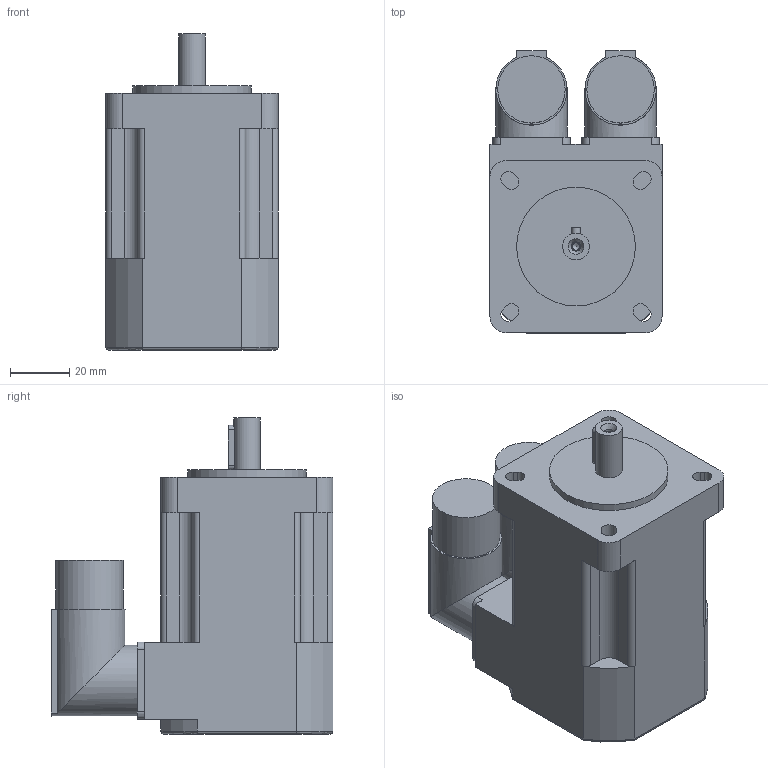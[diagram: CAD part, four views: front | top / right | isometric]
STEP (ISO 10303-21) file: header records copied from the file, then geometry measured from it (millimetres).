
FILE_DESCRIPTION(/* description */ (''),/* implementation_level */ '2;1');
FILE_NAME(/* name */ 'C:\Users\Pastrello_Ylenia\Desktop\Modelli 3D Serad\B28Q\Resolver\Resolver NoBrake\B28D2Qxx6A052000.stp',/* time_stamp */ '2015-06-10T17:08:30+02:00',/* author */ ('Pastrello_Ylenia'),/* organization */ (''),/* preprocessor_version */ 'ST-DEVELOPER v15.6',/* originating_system */ 'Autodesk Inventor 2015',/* authorisation */ '');
FILE_SCHEMA (('AUTOMOTIVE_DESIGN { 1 0 10303 214 3 1 1 }'));
Length unit declared in the file: millimetre
Products named in the file (1): B28D2Qxx6A052000
Bounding box: 58 x 95 x 106.5 mm (x, y, z)
Volume: 329602.7 mm3; surface area: 38323.4 mm2
Topology: 1 solids, 1 shells, 140 faces, 374 edges, 243 vertices
Faces by surface type: plane 72, cylinder 62, torus 4, cone 2
Full cylindrical faces by diameter (mm): 2.5 x1, 3.2 x1, 9 x1, 22.7 x2, 24 x2, 40 x1
Entity records: 4441 total; most frequent: CARTESIAN_POINT 879, DIRECTION 757, ORIENTED_EDGE 722, EDGE_CURVE 360, AXIS2_PLACEMENT_3D 268, VERTEX_POINT 240, LINE 221, VECTOR 221
